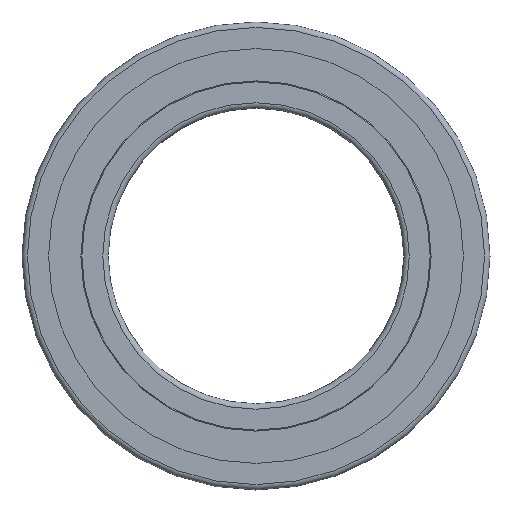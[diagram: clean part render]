
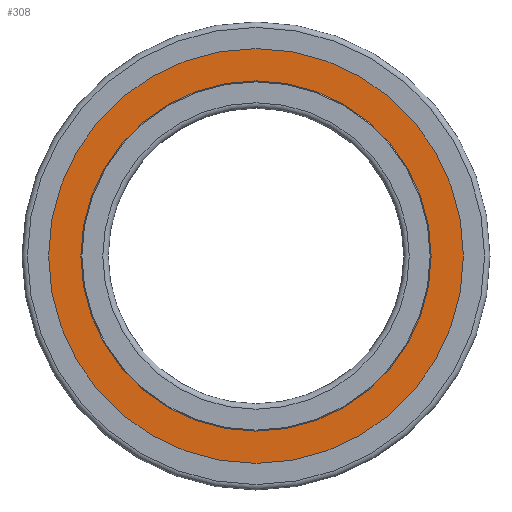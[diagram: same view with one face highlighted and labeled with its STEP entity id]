
A CAD part, left-side view. The second image highlights one B-rep face of the part: STEP entity #308.
In plain terms, the highlighted planar face has unit normal (-1, 0, 0).
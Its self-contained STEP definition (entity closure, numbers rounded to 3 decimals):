
#252=PLANE('',#1126);
#308=ADVANCED_FACE('',(#403,#404),#252,.F.);
#403=FACE_BOUND('',#587,.T.);
#404=FACE_BOUND('',#588,.T.);
#587=EDGE_LOOP('',(#747));
#588=EDGE_LOOP('',(#748));
#747=ORIENTED_EDGE('',*,*,#1003,.F.);
#748=ORIENTED_EDGE('',*,*,#1001,.T.);
#897=VERTEX_POINT('',#1470);
#899=VERTEX_POINT('',#1475);
#1001=EDGE_CURVE('',#897,#897,#1081,.T.);
#1003=EDGE_CURVE('',#899,#899,#1083,.T.);
#1081=CIRCLE('',#1122,42.1);
#1083=CIRCLE('',#1125,35.55);
#1122=AXIS2_PLACEMENT_3D('',#1469,#1252,#1253);
#1125=AXIS2_PLACEMENT_3D('',#1474,#1258,#1259);
#1126=AXIS2_PLACEMENT_3D('',#1476,#1260,#1261);
#1252=DIRECTION('',(-1.,0.,0.));
#1253=DIRECTION('',(0.,0.,1.));
#1258=DIRECTION('',(-1.,0.,0.));
#1259=DIRECTION('',(0.,0.,1.));
#1260=DIRECTION('',(1.,0.,0.));
#1261=DIRECTION('',(0.,0.,-1.));
#1469=CARTESIAN_POINT('',(0.1,0.,0.));
#1470=CARTESIAN_POINT('',(0.1,0.,42.1));
#1474=CARTESIAN_POINT('',(0.1,0.,0.));
#1475=CARTESIAN_POINT('',(0.1,0.,35.55));
#1476=CARTESIAN_POINT('',(0.1,0.,42.1));
